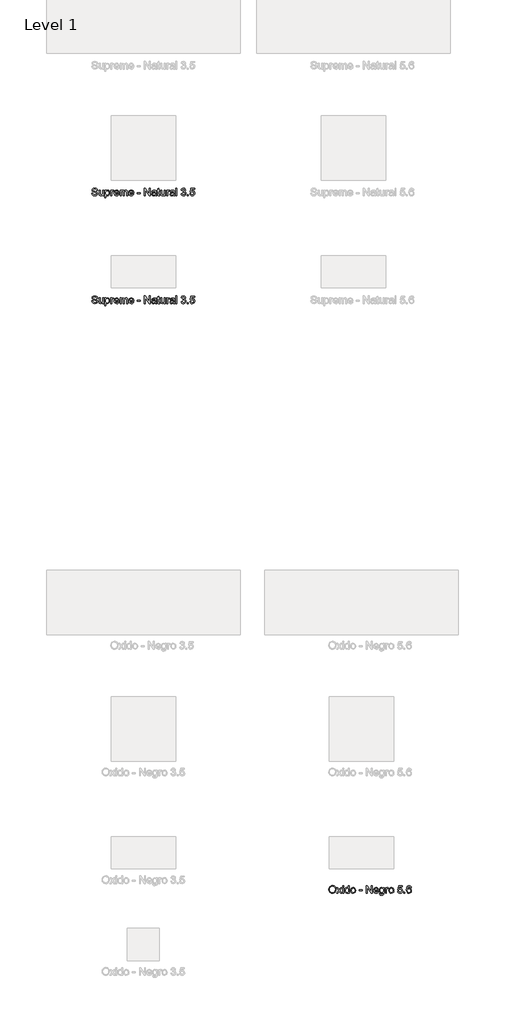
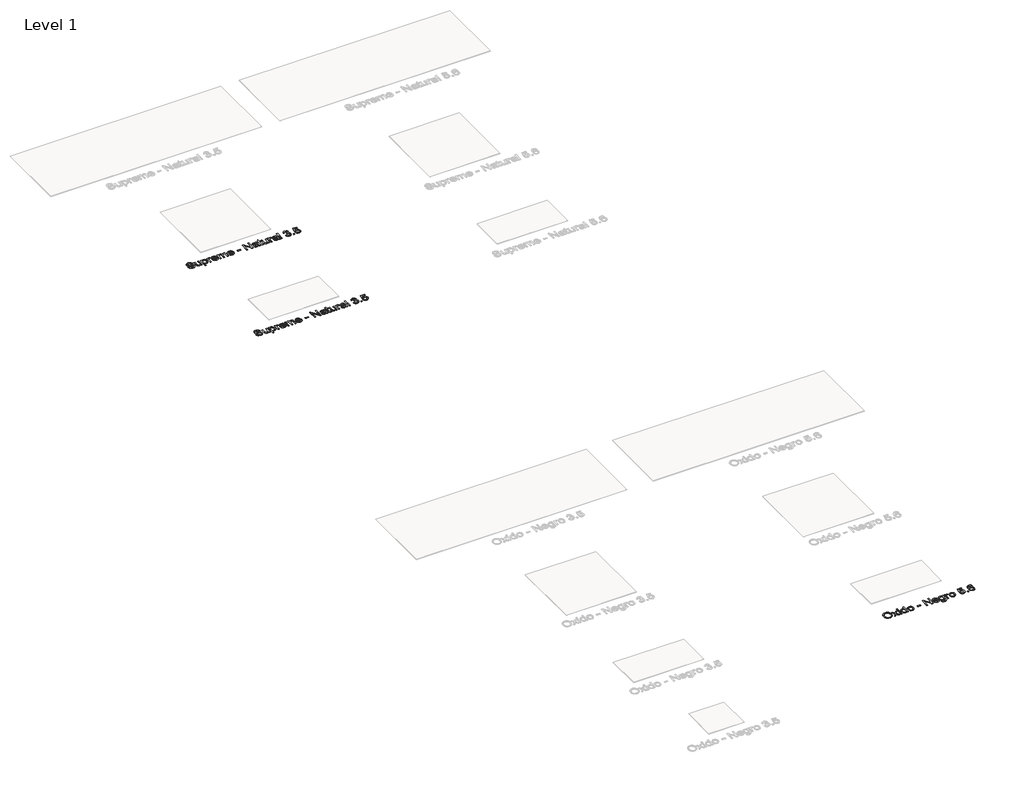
# One storey, part 38 of 80: 3 proxies.
"""IFC4 building model written with IfcOpenShell, lengths in millimetres."""

from ifc_helpers import new_model, si_unit, origin, origin_with_axes, place, context, project, spatial, polyline, outline, extrude, element, save

model = new_model("IFC4")

# Units and contexts
model_context = context("Model", 3, world=origin())
ifc_project = project(units=[si_unit("LENGTHUNIT", "METRE", prefix="MILLI")], contexts=[model_context])

# Site, building, storey
site = spatial("IfcSite", under=ifc_project)
building = spatial("IfcBuilding", under=site)
storey = spatial("IfcBuildingStorey", under=building, Name="Level 1", Elevation=0.0)

# Proxies
placement = place(None, origin())
element("IfcBuildingElementProxy", 1, Name="24\" Arial", ObjectType="24\" Arial", at=placement, inside=storey, context=model_context, shape_type="SweptSolid", body=[
    extrude(outline(polyline([(16211.3854306, -11372.6920446), (16215.3229306, -11346.5646408), (16227.1354306, -11326.7978138), (16245.1714883, -11314.35791), (16267.7796613, -11310.2112754), (16283.2772575, -11312.1583908), (16297.1738921, -11317.9997369), (16308.7123536, -11327.3242561), (16317.1354306, -11339.7208908), (16322.284469, -11354.5910831), (16324.0008152, -11371.3362754), (16322.1943248, -11388.3050254), (16316.7748536, -11403.3843523), (16308.0416806, -11415.8026215), (16296.2940844, -11424.7881985), (16282.5164402, -11430.2401215), (16267.6931229, -11432.0574292), (16251.9575459, -11430.0490158), (16237.9815844, -11424.0237754), (16226.471969, -11414.5261792), (16218.1354306, -11402.1006985), (16213.0729306, -11387.8038235), (16211.3854306, -11372.6920446)]), holes=[polyline([(16226.1546613, -11372.8362754), (16229.1077863, -11391.3194485), (16237.9671613, -11405.4035831), (16251.2832671, -11414.3170446), (16267.6065844, -11417.2881985), (16284.1678825, -11414.2881985), (16297.5056229, -11405.2881985), (16306.300094, -11390.7713715), (16309.2315844, -11371.2208908), (16304.2123536, -11346.8458908), (16298.0356709, -11337.6043042), (16289.5440844, -11330.7064677), (16267.8661998, -11324.9805061), (16251.9791806, -11327.7389196), (16238.471969, -11336.01416), (16229.2339883, -11350.7365158), (16226.1546613, -11372.8362754)])]), origin_with_axes(), (0.0, 0.0, 1.0), 2.0),
    extrude(outline(polyline([(16333.2315844, -11430.2112754), (16364.7892767, -11386.5958908), (16335.0777383, -11343.4420446), (16352.846969, -11343.4420446), (16367.1835075, -11364.2112754), (16373.8758152, -11374.0189677), (16379.6738921, -11365.9997369), (16396.0008152, -11343.4420446), (16413.7700459, -11343.4420446), (16382.5585075, -11386.5958908), (16412.6161998, -11430.2112754), (16394.846969, -11430.2112754), (16376.7604306, -11403.9901215), (16373.4431229, -11399.20166), (16351.0008152, -11430.2112754), (16333.2315844, -11430.2112754)])), origin_with_axes(), (0.0, 0.0, 1.0), 2.0),
    extrude(outline(polyline([(16425.5392767, -11326.82666), (16425.5392767, -11312.0574292), (16440.3085075, -11312.0574292), (16440.3085075, -11326.82666), (16425.5392767, -11326.82666)])), origin_with_axes(), (0.0, 0.0, 1.0), 2.0),
    extrude(outline(polyline([(16425.5392767, -11430.2112754), (16425.5392767, -11343.4420446), (16440.3085075, -11343.4420446), (16440.3085075, -11430.2112754), (16425.5392767, -11430.2112754)])), origin_with_axes(), (0.0, 0.0, 1.0), 2.0),
    extrude(outline(polyline([(16516.0008152, -11430.2112754), (16516.0008152, -11416.2785831), (16506.2291806, -11428.1127177), (16492.721969, -11432.0574292), (16474.4335075, -11426.3458908), (16461.5104306, -11410.4083908), (16456.9238921, -11386.9131985), (16461.1498536, -11363.4035831), (16466.4286998, -11354.0790638), (16473.8133152, -11347.2208908), (16492.6642767, -11341.5958908), (16506.2796613, -11345.6199292), (16516.0008152, -11356.07666), (16516.0008152, -11312.0574292), (16530.7700459, -11312.0574292), (16530.7700459, -11430.2112754), (16516.0008152, -11430.2112754)]), holes=[polyline([(16471.6931229, -11386.8555061), (16473.3589883, -11400.2148811), (16478.3565844, -11409.7160831), (16485.6186036, -11415.3951696), (16494.0777383, -11417.2881985), (16502.5332671, -11415.4817081), (16509.6113921, -11410.0622369), (16514.4034594, -11400.9288235), (16516.0008152, -11387.9805061), (16514.3746133, -11373.8242561), (16509.4960075, -11364.0093523), (16502.237594, -11358.2761792), (16493.471969, -11356.3651215), (16484.9262959, -11358.2004581), (16477.9238921, -11363.7064677), (16473.2508152, -11373.1644004), (16471.6931229, -11386.8555061)])]), origin_with_axes(), (0.0, 0.0, 1.0), 2.0),
    extrude(outline(polyline([(16549.2315844, -11386.82666), (16552.4262959, -11365.9059869), (16562.0104306, -11351.20166), (16573.8517767, -11343.9973331), (16588.0296613, -11341.5958908), (16603.5452863, -11344.5201696), (16615.9383152, -11353.2930061), (16624.0621133, -11367.2220927), (16626.7700459, -11385.6151215), (16621.9815844, -11411.8939677), (16608.034469, -11426.76416), (16588.0296613, -11432.0574292), (16572.3265363, -11429.1439677), (16559.9479306, -11420.4035831), (16551.9106709, -11406.1824292), (16549.2315844, -11386.82666)]), holes=[polyline([(16564.0008152, -11386.7978138), (16565.7099498, -11400.1644004), (16570.8373536, -11409.6872369), (16578.5536998, -11415.3879581), (16588.0296613, -11417.2881985), (16597.4623536, -11415.3771408), (16605.1642767, -11409.6439677), (16610.2916806, -11399.9949292), (16612.0008152, -11386.3362754), (16610.2808633, -11373.3591119), (16605.1210075, -11363.9660831), (16597.4082671, -11358.2653619), (16588.0296613, -11356.3651215), (16578.5536998, -11358.2581504), (16570.8373536, -11363.9372369), (16565.7099498, -11373.4384388), (16564.0008152, -11386.7978138)])]), origin_with_axes(), (0.0, 0.0, 1.0), 2.0),
    extrude(outline(polyline([(16682.1546613, -11395.1343523), (16682.1546613, -11380.3651215), (16728.3085075, -11380.3651215), (16728.3085075, -11395.1343523), (16682.1546613, -11395.1343523)])), origin_with_axes(), (0.0, 0.0, 1.0), 2.0),
    extrude(outline(polyline([(16792.9238921, -11430.2112754), (16792.9238921, -11312.0574292), (16808.7315844, -11312.0574292), (16870.4623536, -11405.6631985), (16870.4623536, -11312.0574292), (16885.2315844, -11312.0574292), (16885.2315844, -11430.2112754), (16869.4238921, -11430.2112754), (16807.6931229, -11336.57666), (16807.6931229, -11430.2112754), (16792.9238921, -11430.2112754)])), origin_with_axes(), (0.0, 0.0, 1.0), 2.0),
    extrude(outline(polyline([(16969.9815844, -11404.3651215), (16984.4623536, -11406.2112754), (16979.2448056, -11417.1223331), (16970.9190844, -11425.2785831), (16959.6726902, -11430.3627177), (16945.6931229, -11432.0574292), (16928.3637959, -11429.1331504), (16915.0296613, -11420.3603138), (16906.5272575, -11406.3086311), (16903.6931229, -11387.5478138), (16906.5561036, -11368.1559869), (16915.1450459, -11353.6535831), (16928.2988921, -11344.6103138), (16944.8565844, -11341.5958908), (16960.8986517, -11344.6031023), (16973.7171613, -11353.6247369), (16982.1222094, -11368.0982946), (16984.9238921, -11387.4612754), (16984.8373536, -11391.4420446), (16918.4623536, -11391.4420446), (16921.018844, -11402.4973331), (16926.9575459, -11410.6247369), (16935.5284594, -11415.6223331), (16945.9815844, -11417.2881985), (16960.4623536, -11414.20166), (16969.9815844, -11404.3651215)]), holes=[polyline([(16918.4623536, -11376.6728138), (16970.1546613, -11376.6728138), (16964.2411998, -11363.2881985), (16955.6306229, -11358.0958908), (16944.7988921, -11356.3651215), (16926.6113921, -11361.88916), (16920.8890363, -11368.3470927), (16918.4623536, -11376.6728138)])]), origin_with_axes(), (0.0, 0.0, 1.0), 2.0),
    extrude(outline(polyline([(16996.0008152, -11437.5958908), (17010.7700459, -11439.4420446), (17015.5585075, -11447.2305061), (17029.8950459, -11450.5189677), (17045.0104306, -11446.7978138), (17052.221969, -11436.3555061), (17053.2315844, -11419.1343523), (17042.8325459, -11427.4420446), (17030.1546613, -11430.2112754), (17014.9274979, -11426.9877177), (17003.5729306, -11417.3170446), (16996.5092286, -11403.13916), (16994.1546613, -11386.3939677), (16998.3806229, -11363.5045446), (17010.6113921, -11347.3074292), (17029.4335075, -11341.5958908), (17042.6089883, -11344.82666), (17053.2315844, -11354.5189677), (17053.2315844, -11343.4420446), (17068.0008152, -11343.4420446), (17068.0008152, -11418.3555061), (17063.9623536, -11447.0430061), (17051.1690844, -11460.3843523), (17029.6065844, -11465.2881985), (17015.8649979, -11463.561035), (17005.0440844, -11458.3795446), (16998.1029786, -11449.7293042), (16996.0008152, -11437.5958908)]), holes=[polyline([(17008.9238921, -11385.3843523), (17010.4996133, -11398.9312273), (17015.2267767, -11408.2449292), (17022.3337479, -11413.6427658), (17031.0488921, -11415.4420446), (17039.6991325, -11413.6535831), (17046.8421613, -11408.2881985), (17051.6342286, -11399.0934869), (17053.2315844, -11385.8170446), (17051.5873536, -11373.0129581), (17046.6546613, -11363.7930061), (17039.4070652, -11358.2220927), (17030.8181229, -11356.3651215), (17022.3842286, -11358.1932465), (17015.3133152, -11363.6776215), (17010.5212479, -11372.7605542), (17008.9238921, -11385.3843523)])]), origin_with_axes(), (0.0, 0.0, 1.0), 2.0),
    extrude(outline(polyline([(17090.1546613, -11430.2112754), (17090.1546613, -11343.4420446), (17103.0777383, -11343.4420446), (17103.0777383, -11356.2785831), (17112.2508152, -11344.45166), (17121.4815844, -11341.5958908), (17136.3085075, -11346.1535831), (17131.3758152, -11359.3939677), (17120.9911998, -11356.3651215), (17112.6402383, -11359.2785831), (17107.3181229, -11367.3555061), (17104.9238921, -11384.6055061), (17104.9238921, -11430.2112754), (17090.1546613, -11430.2112754)])), origin_with_axes(), (0.0, 0.0, 1.0), 2.0),
    extrude(outline(polyline([(17141.846969, -11386.82666), (17145.0416806, -11365.9059869), (17154.6258152, -11351.20166), (17166.4671613, -11343.9973331), (17180.6450459, -11341.5958908), (17196.1606709, -11344.5201696), (17208.5536998, -11353.2930061), (17216.6774979, -11367.2220927), (17219.3854306, -11385.6151215), (17214.596969, -11411.8939677), (17200.6498536, -11426.76416), (17180.6450459, -11432.0574292), (17164.9419209, -11429.1439677), (17152.5633152, -11420.4035831), (17144.5260556, -11406.1824292), (17141.846969, -11386.82666)]), holes=[polyline([(17156.6161998, -11386.7978138), (17158.3253344, -11400.1644004), (17163.4527383, -11409.6872369), (17171.1690844, -11415.3879581), (17180.6450459, -11417.2881985), (17190.0777383, -11415.3771408), (17197.7796613, -11409.6439677), (17202.9070652, -11399.9949292), (17204.6161998, -11386.3362754), (17202.8962479, -11373.3591119), (17197.7363921, -11363.9660831), (17190.0236517, -11358.2653619), (17180.6450459, -11356.3651215), (17171.1690844, -11358.2581504), (17163.4527383, -11363.9372369), (17158.3253344, -11373.4384388), (17156.6161998, -11386.7978138)])]), origin_with_axes(), (0.0, 0.0, 1.0), 2.0),
    extrude(outline(polyline([(17278.4623536, -11398.82666), (17293.2315844, -11396.9805061), (17300.6738921, -11412.1968523), (17316.1065844, -11417.2881985), (17326.6931229, -11415.5177658), (17334.6258152, -11410.2064677), (17339.5801421, -11401.967285), (17341.2315844, -11391.4131985), (17339.6847094, -11381.4756985), (17335.0440844, -11373.8747369), (17327.2736517, -11369.0502177), (17316.3373536, -11367.4420446), (17303.3710075, -11370.0093523), (17295.0777383, -11376.6728138), (17280.3085075, -11374.82666), (17293.2315844, -11313.9035831), (17350.4623536, -11313.9035831), (17350.4623536, -11328.6728138), (17305.1738921, -11328.6728138), (17298.8565844, -11361.2112754), (17309.4070652, -11354.8074292), (17320.4623536, -11352.6728138), (17334.2616325, -11355.3194485), (17345.7171613, -11363.2593523), (17353.4299017, -11375.3603138), (17356.0008152, -11390.4901215), (17353.6859113, -11405.2593523), (17346.7411998, -11417.8939677), (17333.4431229, -11428.5165638), (17316.0488921, -11432.0574292), (17301.5428825, -11429.7821888), (17289.9863921, -11422.9564677), (17282.0645171, -11412.373535), (17278.4623536, -11398.82666)])), origin_with_axes(), (0.0, 0.0, 1.0), 2.0),
    extrude(outline(polyline([(17376.3085075, -11430.2112754), (17376.3085075, -11415.4420446), (17391.0777383, -11415.4420446), (17391.0777383, -11430.2112754), (17376.3085075, -11430.2112754)])), origin_with_axes(), (0.0, 0.0, 1.0), 2.0),
    extrude(outline(polyline([(17490.7700459, -11343.4420446), (17476.0008152, -11345.2881985), (17470.4046613, -11332.9708908), (17463.7051421, -11328.3627177), (17455.6065844, -11326.82666), (17442.2796613, -11330.4035831), (17432.1979306, -11343.8314677), (17428.0008152, -11370.1535831), (17441.0248536, -11358.3699292), (17457.1642767, -11354.5189677), (17470.8085075, -11357.1511792), (17482.2604306, -11365.0478138), (17490.0272575, -11377.1127177), (17492.6161998, -11392.2497369), (17487.7411998, -11412.6295446), (17474.3277383, -11427.0526215), (17454.971969, -11432.0574292), (17438.2159594, -11428.7401215), (17424.8710075, -11418.7881985), (17416.1414402, -11401.2208908), (17413.2315844, -11375.0574292), (17416.4623536, -11345.6415638), (17426.1546613, -11325.5285831), (17439.3878344, -11315.4252177), (17456.5296613, -11312.0574292), (17469.4887959, -11314.1415638), (17479.8661998, -11320.3939677), (17487.1354306, -11330.3242561), (17490.7700459, -11343.4420446)]), holes=[polyline([(17428.0008152, -11392.0189677), (17431.4190844, -11404.8122369), (17440.5056229, -11414.1006985), (17453.8181229, -11417.2881985), (17463.5645171, -11415.6367561), (17471.2267767, -11410.6824292), (17476.1919209, -11402.8939677), (17477.846969, -11392.7401215), (17476.2135556, -11382.9937273), (17471.3133152, -11375.5622369), (17463.5212479, -11370.8567081), (17453.2123536, -11369.2881985), (17443.4803825, -11370.8567081), (17435.3421613, -11375.5622369), (17429.8361517, -11382.8134388), (17428.0008152, -11392.0189677)])]), origin_with_axes(), (0.0, 0.0, 1.0), 2.0),
])
element("IfcBuildingElementProxy", 2, Name="24\" Arial", ObjectType="24\" Arial", at=placement, inside=storey, context=model_context, shape_type="SweptSolid", body=[
    extrude(outline(polyline([(12536.0008152, -575.9830961), (12550.7700459, -575.9830961), (12555.5296613, -590.76675), (12567.1546613, -600.1129038), (12584.8661998, -603.6754038), (12600.2988921, -600.9782884), (12610.2652383, -593.5648269), (12613.5392767, -583.6561731), (12611.0873536, -574.4398269), (12601.0488921, -567.7330961), (12579.5440844, -562.0936731), (12556.3950459, -554.8100192), (12543.8325459, -543.8196346), (12539.6931229, -529.1369423), (12544.8133152, -512.4205961), (12559.7700459, -500.6225192), (12581.6642767, -496.5984808), (12605.0296613, -500.8100192), (12620.6065844, -513.1850192), (12626.4623536, -531.6754038), (12611.6931229, -531.6754038), (12608.9815844, -522.8629038), (12603.3277383, -516.5023269), (12594.4936036, -512.6513654), (12582.2411998, -511.3677115), (12569.7003344, -512.6369423), (12561.096969, -516.4446346), (12556.1210075, -522.048), (12554.4623536, -528.70425), (12559.1642767, -538.9446346), (12583.2796613, -547.1946346), (12609.4142767, -554.6080961), (12623.7075459, -566.57925), (12628.3085075, -583.2811731), (12623.0152383, -600.9494423), (12607.784469, -613.8436731), (12585.4431229, -618.4446346), (12559.0633152, -613.4830961), (12549.5765363, -607.26675), (12542.3758152, -598.5407884), (12536.0008152, -575.9830961)])), origin_with_axes(), (0.0, 0.0, 1.0), 2.0),
    extrude(outline(polyline([(12704.0008152, -616.5984808), (12704.0008152, -601.6850192), (12692.4335075, -614.2547308), (12677.346969, -618.4446346), (12663.4575459, -615.5023269), (12653.8806229, -608.1177115), (12649.4815844, -597.2427115), (12648.6161998, -583.5119423), (12648.6161998, -529.82925), (12663.3854306, -529.82925), (12663.3854306, -576.5600192), (12664.2796613, -591.6177115), (12670.1210075, -600.4590577), (12681.1258152, -603.6754038), (12693.4575459, -600.3869423), (12701.6065844, -591.4302115), (12704.0008152, -574.9734808), (12704.0008152, -529.82925), (12718.7700459, -529.82925), (12718.7700459, -616.5984808), (12704.0008152, -616.5984808)])), origin_with_axes(), (0.0, 0.0, 1.0), 2.0),
    extrude(outline(polyline([(12739.0777383, -649.82925), (12739.0777383, -529.82925), (12753.846969, -529.82925), (12753.846969, -544.3100192), (12764.0585075, -532.0648269), (12777.846969, -527.9830961), (12796.5681229, -533.6946346), (12808.7988921, -549.7907884), (12812.9238921, -572.5504038), (12808.2652383, -596.4782884), (12802.5536998, -605.8677115), (12794.7363921, -612.7763654), (12776.0585075, -618.4446346), (12763.2075459, -614.6513654), (12753.846969, -605.0600192), (12753.846969, -649.82925), (12739.0777383, -649.82925)]), holes=[polyline([(12753.846969, -573.9061731), (12755.4443248, -587.1465577), (12760.2363921, -596.4061731), (12767.3073056, -601.8580961), (12775.7411998, -603.6754038), (12784.3121133, -601.7931923), (12791.5633152, -596.1465577), (12796.5068248, -586.548), (12798.1546613, -572.8100192), (12796.5464883, -559.64175), (12791.721969, -550.2523269), (12784.6618729, -544.6273269), (12776.346969, -542.7523269), (12767.9996133, -544.7463173), (12760.6690844, -550.7282884), (12755.5524979, -560.5107404), (12753.846969, -573.9061731)])]), origin_with_axes(), (0.0, 0.0, 1.0), 2.0),
    extrude(outline(polyline([(12829.5392767, -616.5984808), (12829.5392767, -529.82925), (12842.4623536, -529.82925), (12842.4623536, -542.6657884), (12851.6354306, -530.8388654), (12860.8661998, -527.9830961), (12875.6931229, -532.5407884), (12870.7604306, -545.7811731), (12860.3758152, -542.7523269), (12852.0248536, -545.6657884), (12846.7027383, -553.7427115), (12844.3085075, -570.9927115), (12844.3085075, -616.5984808), (12829.5392767, -616.5984808)])), origin_with_axes(), (0.0, 0.0, 1.0), 2.0),
    extrude(outline(polyline([(12945.6738921, -590.7523269), (12960.1546613, -592.5984808), (12954.9371133, -603.5095384), (12946.6113921, -611.6657884), (12935.3649979, -616.7499231), (12921.3854306, -618.4446346), (12904.0561036, -615.5203558), (12890.721969, -606.7475192), (12882.2195652, -592.6958365), (12879.3854306, -573.9350192), (12882.2484113, -554.5431923), (12890.8373536, -540.0407884), (12903.9911998, -530.9975192), (12920.5488921, -527.9830961), (12936.5909594, -530.9903077), (12949.409469, -540.0119423), (12957.8145171, -554.4855), (12960.6161998, -573.8484808), (12960.5296613, -577.82925), (12894.1546613, -577.82925), (12896.7111517, -588.8845384), (12902.6498536, -597.0119423), (12911.2207671, -602.0095384), (12921.6738921, -603.6754038), (12936.1546613, -600.5888654), (12945.6738921, -590.7523269)]), holes=[polyline([(12894.1546613, -563.0600192), (12945.846969, -563.0600192), (12939.9335075, -549.6754038), (12931.3229306, -544.4830961), (12920.4911998, -542.7523269), (12902.3036998, -548.2763654), (12896.581344, -554.7342981), (12894.1546613, -563.0600192)])]), origin_with_axes(), (0.0, 0.0, 1.0), 2.0),
    extrude(outline(polyline([(12975.3854306, -616.5984808), (12975.3854306, -529.82925), (12990.1546613, -529.82925), (12990.1546613, -544.1080961), (13000.3085075, -532.4109808), (13014.7604306, -527.9830961), (13029.5585075, -532.4975192), (13037.6931229, -545.1465577), (13049.2171613, -532.2739615), (13063.7700459, -527.9830961), (13074.8722094, -529.7679519), (13083.0825459, -535.1225192), (13088.1558633, -544.1910288), (13089.846969, -557.1177115), (13089.846969, -616.5984808), (13075.0777383, -616.5984808), (13075.0777383, -563.4638654), (13073.7075459, -551.1321346), (13068.7460075, -545.0600192), (13060.3085075, -542.7523269), (13052.3073056, -544.2306923), (13045.784469, -548.6657884), (13041.4467286, -556.3605), (13040.0008152, -567.6177115), (13040.0008152, -616.5984808), (13025.2315844, -616.5984808), (13025.2315844, -561.8196346), (13021.8133152, -547.5119423), (13010.6065844, -542.7523269), (12999.6738921, -545.9254038), (12992.4046613, -555.2138654), (12990.1546613, -572.8388654), (12990.1546613, -616.5984808), (12975.3854306, -616.5984808)])), origin_with_axes(), (0.0, 0.0, 1.0), 2.0),
    extrude(outline(polyline([(13172.7508152, -590.7523269), (13187.2315844, -592.5984808), (13182.0140363, -603.5095384), (13173.6883152, -611.6657884), (13162.4419209, -616.7499231), (13148.4623536, -618.4446346), (13131.1330267, -615.5203558), (13117.7988921, -606.7475192), (13109.2964883, -592.6958365), (13106.4623536, -573.9350192), (13109.3253344, -554.5431923), (13117.9142767, -540.0407884), (13131.0681229, -530.9975192), (13147.6258152, -527.9830961), (13163.6678825, -530.9903077), (13176.4863921, -540.0119423), (13184.8914402, -554.4855), (13187.6931229, -573.8484808), (13187.6065844, -577.82925), (13121.2315844, -577.82925), (13123.7880748, -588.8845384), (13129.7267767, -597.0119423), (13138.2976902, -602.0095384), (13148.7508152, -603.6754038), (13163.2315844, -600.5888654), (13172.7508152, -590.7523269)]), holes=[polyline([(13121.2315844, -563.0600192), (13172.9238921, -563.0600192), (13167.0104306, -549.6754038), (13158.3998536, -544.4830961), (13147.5681229, -542.7523269), (13129.3806229, -548.2763654), (13123.6582671, -554.7342981), (13121.2315844, -563.0600192)])]), origin_with_axes(), (0.0, 0.0, 1.0), 2.0),
    extrude(outline(polyline([(13241.2315844, -581.5215577), (13241.2315844, -566.7523269), (13287.3854306, -566.7523269), (13287.3854306, -581.5215577), (13241.2315844, -581.5215577)])), origin_with_axes(), (0.0, 0.0, 1.0), 2.0),
    extrude(outline(polyline([(13352.0008152, -616.5984808), (13352.0008152, -498.4446346), (13367.8085075, -498.4446346), (13429.5392767, -592.0504038), (13429.5392767, -498.4446346), (13444.3085075, -498.4446346), (13444.3085075, -616.5984808), (13428.5008152, -616.5984808), (13366.7700459, -522.9638654), (13366.7700459, -616.5984808), (13352.0008152, -616.5984808)])), origin_with_axes(), (0.0, 0.0, 1.0), 2.0),
    extrude(outline(polyline([(13523.6931229, -605.5215577), (13509.3710075, -615.5311731), (13493.5488921, -618.4446346), (13481.206344, -616.6922308), (13472.1017767, -611.4350192), (13466.487594, -603.4518461), (13464.6161998, -593.5215577), (13467.4431229, -581.8388654), (13474.8710075, -573.3580961), (13485.2123536, -568.5119423), (13497.9911998, -566.2907884), (13523.6065844, -561.2138654), (13523.6931229, -557.9254038), (13519.6258152, -547.0215577), (13503.2988921, -542.7523269), (13488.3565844, -545.5936731), (13481.2315844, -555.6754038), (13466.4623536, -553.82925), (13472.8517767, -539.4061731), (13485.7171613, -530.95425), (13505.2027383, -527.9830961), (13523.1017767, -530.6080961), (13533.2123536, -537.1994423), (13537.7411998, -547.2234808), (13538.4623536, -560.1465577), (13538.4623536, -578.5215577), (13539.2123536, -604.1802115), (13542.1546613, -616.5984808), (13527.3854306, -616.5984808), (13523.6931229, -605.5215577)]), holes=[polyline([(13523.6931229, -575.9830961), (13499.8661998, -580.5119423), (13487.159469, -582.9061731), (13481.4046613, -586.8004038), (13479.3854306, -592.4830961), (13483.784469, -600.4734808), (13496.6931229, -603.6754038), (13511.6354306, -600.14175), (13521.2700459, -591.5888654), (13523.6065844, -580.1657884), (13523.6931229, -575.9830961)])]), origin_with_axes(), (0.0, 0.0, 1.0), 2.0),
    extrude(outline(polyline([(13590.1546613, -604.2811731), (13592.0008152, -617.0311731), (13580.9527383, -618.4446346), (13568.5777383, -615.9927115), (13562.4046613, -609.5600192), (13560.6161998, -592.8004038), (13560.6161998, -544.5984808), (13549.5392767, -544.5984808), (13549.5392767, -529.82925), (13560.6161998, -529.82925), (13560.6161998, -508.7427115), (13575.3854306, -500.0600192), (13575.3854306, -529.82925), (13590.1546613, -529.82925), (13590.1546613, -544.5984808), (13575.3854306, -544.5984808), (13575.3854306, -592.3677115), (13576.1642767, -599.9830961), (13578.6883152, -602.6802115), (13583.721969, -603.6754038), (13590.1546613, -604.2811731)])), origin_with_axes(), (0.0, 0.0, 1.0), 2.0),
    extrude(outline(polyline([(13660.3085075, -616.5984808), (13660.3085075, -601.6850192), (13648.7411998, -614.2547308), (13633.6546613, -618.4446346), (13619.7652383, -615.5023269), (13610.1883152, -608.1177115), (13605.7892767, -597.2427115), (13604.9238921, -583.5119423), (13604.9238921, -529.82925), (13619.6931229, -529.82925), (13619.6931229, -576.5600192), (13620.5873536, -591.6177115), (13626.4286998, -600.4590577), (13637.4335075, -603.6754038), (13649.7652383, -600.3869423), (13657.9142767, -591.4302115), (13660.3085075, -574.9734808), (13660.3085075, -529.82925), (13675.0777383, -529.82925), (13675.0777383, -616.5984808), (13660.3085075, -616.5984808)])), origin_with_axes(), (0.0, 0.0, 1.0), 2.0),
    extrude(outline(polyline([(13695.3854306, -616.5984808), (13695.3854306, -529.82925), (13708.3085075, -529.82925), (13708.3085075, -542.6657884), (13717.4815844, -530.8388654), (13726.7123536, -527.9830961), (13741.5392767, -532.5407884), (13736.6065844, -545.7811731), (13726.221969, -542.7523269), (13717.8710075, -545.6657884), (13712.5488921, -553.7427115), (13710.1546613, -570.9927115), (13710.1546613, -616.5984808), (13695.3854306, -616.5984808)])), origin_with_axes(), (0.0, 0.0, 1.0), 2.0),
    extrude(outline(polyline([(13806.1546613, -605.5215577), (13791.8325459, -615.5311731), (13776.0104306, -618.4446346), (13763.6678825, -616.6922308), (13754.5633152, -611.4350192), (13748.9491325, -603.4518461), (13747.0777383, -593.5215577), (13749.9046613, -581.8388654), (13757.3325459, -573.3580961), (13767.6738921, -568.5119423), (13780.4527383, -566.2907884), (13806.0681229, -561.2138654), (13806.1546613, -557.9254038), (13802.0873536, -547.0215577), (13785.7604306, -542.7523269), (13770.8181229, -545.5936731), (13763.6931229, -555.6754038), (13748.9238921, -553.82925), (13755.3133152, -539.4061731), (13768.1786998, -530.95425), (13787.6642767, -527.9830961), (13805.5633152, -530.6080961), (13815.6738921, -537.1994423), (13820.2027383, -547.2234808), (13820.9238921, -560.1465577), (13820.9238921, -578.5215577), (13821.6738921, -604.1802115), (13824.6161998, -616.5984808), (13809.846969, -616.5984808), (13806.1546613, -605.5215577)]), holes=[polyline([(13806.1546613, -575.9830961), (13782.3277383, -580.5119423), (13769.6210075, -582.9061731), (13763.8661998, -586.8004038), (13761.846969, -592.4830961), (13766.2460075, -600.4734808), (13779.1546613, -603.6754038), (13794.096969, -600.14175), (13803.7315844, -591.5888654), (13806.0681229, -580.1657884), (13806.1546613, -575.9830961)])]), origin_with_axes(), (0.0, 0.0, 1.0), 2.0),
    extrude(outline(polyline([(13841.2315844, -616.5984808), (13841.2315844, -498.4446346), (13856.0008152, -498.4446346), (13856.0008152, -616.5984808), (13841.2315844, -616.5984808)])), origin_with_axes(), (0.0, 0.0, 1.0), 2.0),
    extrude(outline(polyline([(13920.6161998, -585.2138654), (13935.3854306, -583.3677115), (13943.534469, -598.9157884), (13958.7796613, -603.6754038), (13968.9046613, -602.0383846), (13976.721969, -597.1273269), (13981.7195652, -589.8004038), (13983.3854306, -580.9157884), (13981.7339883, -572.4818942), (13976.7796613, -565.64175), (13969.2796613, -561.1092981), (13959.9911998, -559.5984808), (13949.6354306, -561.2138654), (13951.2796613, -546.4446346), (13953.6450459, -546.6177115), (13970.4046613, -542.3773269), (13975.9863921, -536.9975192), (13977.846969, -529.3388654), (13972.4527383, -517.7859808), (13958.5488921, -513.2138654), (13944.471969, -517.82925), (13937.2315844, -531.6754038), (13922.4623536, -529.82925), (13926.8109113, -516.5672308), (13934.5488921, -506.6657884), (13945.1354306, -500.4999231), (13958.0296613, -498.4446346), (13975.8421613, -502.4975192), (13988.3036998, -513.5744423), (13992.6161998, -528.4734808), (13988.5200459, -542.0888654), (13976.4046613, -551.8677115), (13985.6498536, -555.6032884), (13992.5008152, -561.9638654), (13996.7411998, -570.6032884), (13998.1546613, -581.1754038), (13995.3277383, -595.5696346), (13986.846969, -607.5984808), (13974.0464883, -615.7330961), (13958.2604306, -618.4446346), (13943.9815844, -616.1297308), (13932.3565844, -609.1850192), (13924.2724498, -598.5624231), (13920.6161998, -585.2138654)])), origin_with_axes(), (0.0, 0.0, 1.0), 2.0),
    extrude(outline(polyline([(14018.4623536, -616.5984808), (14018.4623536, -601.82925), (14033.2315844, -601.82925), (14033.2315844, -616.5984808), (14018.4623536, -616.5984808)])), origin_with_axes(), (0.0, 0.0, 1.0), 2.0),
    extrude(outline(polyline([(14057.2315844, -585.2138654), (14072.0008152, -583.3677115), (14079.4431229, -598.5840577), (14094.8758152, -603.6754038), (14105.4623536, -601.9049711), (14113.3950459, -596.5936731), (14118.3493729, -588.3544904), (14120.0008152, -577.8004038), (14118.4539402, -567.8629038), (14113.8133152, -560.2619423), (14106.0428825, -555.4374231), (14095.1065844, -553.82925), (14082.1402383, -556.3965577), (14073.846969, -563.0600192), (14059.0777383, -561.2138654), (14072.0008152, -500.2907884), (14129.2315844, -500.2907884), (14129.2315844, -515.0600192), (14083.9431229, -515.0600192), (14077.6258152, -547.5984808), (14088.1762959, -541.1946346), (14099.2315844, -539.0600192), (14113.0308633, -541.7066538), (14124.4863921, -549.6465577), (14132.1991325, -561.7475192), (14134.7700459, -576.8773269), (14132.4551421, -591.6465577), (14125.5104306, -604.2811731), (14112.2123536, -614.9037692), (14094.8181229, -618.4446346), (14080.3121133, -616.1693942), (14068.7556229, -609.3436731), (14060.8337479, -598.7607404), (14057.2315844, -585.2138654)])), origin_with_axes(), (0.0, 0.0, 1.0), 2.0),
])
element("IfcBuildingElementProxy", 3, Name="24\" Arial", ObjectType="24\" Arial", at=placement, inside=storey, context=model_context, shape_type="SweptSolid", body=[
    extrude(outline(polyline([(12536.0008152, -2247.1898581), (12550.7700459, -2247.1898581), (12555.5296613, -2261.973512), (12567.1546613, -2271.3196658), (12584.8661998, -2274.8821658), (12600.2988921, -2272.1850504), (12610.2652383, -2264.7715889), (12613.5392767, -2254.862935), (12611.0873536, -2245.6465889), (12601.0488921, -2238.9398581), (12579.5440844, -2233.300435), (12556.3950459, -2226.0167812), (12543.8325459, -2215.0263966), (12539.6931229, -2200.3437043), (12544.8133152, -2183.6273581), (12559.7700459, -2171.8292812), (12581.6642767, -2167.8052427), (12605.0296613, -2172.0167812), (12620.6065844, -2184.3917812), (12626.4623536, -2202.8821658), (12611.6931229, -2202.8821658), (12608.9815844, -2194.0696658), (12603.3277383, -2187.7090889), (12594.4936036, -2183.8581273), (12582.2411998, -2182.5744735), (12569.7003344, -2183.8437043), (12561.096969, -2187.6513966), (12556.1210075, -2193.254762), (12554.4623536, -2199.911012), (12559.1642767, -2210.1513966), (12583.2796613, -2218.4013966), (12609.4142767, -2225.8148581), (12623.7075459, -2237.786012), (12628.3085075, -2254.487935), (12623.0152383, -2272.1562043), (12607.784469, -2285.050435), (12585.4431229, -2289.6513966), (12559.0633152, -2284.6898581), (12549.5765363, -2278.473512), (12542.3758152, -2269.7475504), (12536.0008152, -2247.1898581)])), origin_with_axes(), (0.0, 0.0, 1.0), 2.0),
    extrude(outline(polyline([(12704.0008152, -2287.8052427), (12704.0008152, -2272.8917812), (12692.4335075, -2285.4614927), (12677.346969, -2289.6513966), (12663.4575459, -2286.7090889), (12653.8806229, -2279.3244735), (12649.4815844, -2268.4494735), (12648.6161998, -2254.7187043), (12648.6161998, -2201.036012), (12663.3854306, -2201.036012), (12663.3854306, -2247.7667812), (12664.2796613, -2262.8244735), (12670.1210075, -2271.6658197), (12681.1258152, -2274.8821658), (12693.4575459, -2271.5937043), (12701.6065844, -2262.6369735), (12704.0008152, -2246.1802427), (12704.0008152, -2201.036012), (12718.7700459, -2201.036012), (12718.7700459, -2287.8052427), (12704.0008152, -2287.8052427)])), origin_with_axes(), (0.0, 0.0, 1.0), 2.0),
    extrude(outline(polyline([(12739.0777383, -2321.036012), (12739.0777383, -2201.036012), (12753.846969, -2201.036012), (12753.846969, -2215.5167812), (12764.0585075, -2203.2715889), (12777.846969, -2199.1898581), (12796.5681229, -2204.9013966), (12808.7988921, -2220.9975504), (12812.9238921, -2243.7571658), (12808.2652383, -2267.6850504), (12802.5536998, -2277.0744735), (12794.7363921, -2283.9831273), (12776.0585075, -2289.6513966), (12763.2075459, -2285.8581273), (12753.846969, -2276.2667812), (12753.846969, -2321.036012), (12739.0777383, -2321.036012)]), holes=[polyline([(12753.846969, -2245.112935), (12755.4443248, -2258.3533197), (12760.2363921, -2267.612935), (12767.3073056, -2273.0648581), (12775.7411998, -2274.8821658), (12784.3121133, -2272.9999543), (12791.5633152, -2267.3533197), (12796.5068248, -2257.754762), (12798.1546613, -2244.0167812), (12796.5464883, -2230.848512), (12791.721969, -2221.4590889), (12784.6618729, -2215.8340889), (12776.346969, -2213.9590889), (12767.9996133, -2215.9530793), (12760.6690844, -2221.9350504), (12755.5524979, -2231.7175023), (12753.846969, -2245.112935)])]), origin_with_axes(), (0.0, 0.0, 1.0), 2.0),
    extrude(outline(polyline([(12829.5392767, -2287.8052427), (12829.5392767, -2201.036012), (12842.4623536, -2201.036012), (12842.4623536, -2213.8725504), (12851.6354306, -2202.0456273), (12860.8661998, -2199.1898581), (12875.6931229, -2203.7475504), (12870.7604306, -2216.987935), (12860.3758152, -2213.9590889), (12852.0248536, -2216.8725504), (12846.7027383, -2224.9494735), (12844.3085075, -2242.1994735), (12844.3085075, -2287.8052427), (12829.5392767, -2287.8052427)])), origin_with_axes(), (0.0, 0.0, 1.0), 2.0),
    extrude(outline(polyline([(12945.6738921, -2261.9590889), (12960.1546613, -2263.8052427), (12954.9371133, -2274.7163004), (12946.6113921, -2282.8725504), (12935.3649979, -2287.956685), (12921.3854306, -2289.6513966), (12904.0561036, -2286.7271177), (12890.721969, -2277.9542812), (12882.2195652, -2263.9025985), (12879.3854306, -2245.1417812), (12882.2484113, -2225.7499543), (12890.8373536, -2211.2475504), (12903.9911998, -2202.2042812), (12920.5488921, -2199.1898581), (12936.5909594, -2202.1970697), (12949.409469, -2211.2187043), (12957.8145171, -2225.692262), (12960.6161998, -2245.0552427), (12960.5296613, -2249.036012), (12894.1546613, -2249.036012), (12896.7111517, -2260.0913004), (12902.6498536, -2268.2187043), (12911.2207671, -2273.2163004), (12921.6738921, -2274.8821658), (12936.1546613, -2271.7956273), (12945.6738921, -2261.9590889)]), holes=[polyline([(12894.1546613, -2234.2667812), (12945.846969, -2234.2667812), (12939.9335075, -2220.8821658), (12931.3229306, -2215.6898581), (12920.4911998, -2213.9590889), (12902.3036998, -2219.4831273), (12896.581344, -2225.94106), (12894.1546613, -2234.2667812)])]), origin_with_axes(), (0.0, 0.0, 1.0), 2.0),
    extrude(outline(polyline([(12975.3854306, -2287.8052427), (12975.3854306, -2201.036012), (12990.1546613, -2201.036012), (12990.1546613, -2215.3148581), (13000.3085075, -2203.6177427), (13014.7604306, -2199.1898581), (13029.5585075, -2203.7042812), (13037.6931229, -2216.3533197), (13049.2171613, -2203.4807235), (13063.7700459, -2199.1898581), (13074.8722094, -2200.9747139), (13083.0825459, -2206.3292812), (13088.1558633, -2215.3977908), (13089.846969, -2228.3244735), (13089.846969, -2287.8052427), (13075.0777383, -2287.8052427), (13075.0777383, -2234.6706273), (13073.7075459, -2222.3388966), (13068.7460075, -2216.2667812), (13060.3085075, -2213.9590889), (13052.3073056, -2215.4374543), (13045.784469, -2219.8725504), (13041.4467286, -2227.567262), (13040.0008152, -2238.8244735), (13040.0008152, -2287.8052427), (13025.2315844, -2287.8052427), (13025.2315844, -2233.0263966), (13021.8133152, -2218.7187043), (13010.6065844, -2213.9590889), (12999.6738921, -2217.1321658), (12992.4046613, -2226.4206273), (12990.1546613, -2244.0456273), (12990.1546613, -2287.8052427), (12975.3854306, -2287.8052427)])), origin_with_axes(), (0.0, 0.0, 1.0), 2.0),
    extrude(outline(polyline([(13172.7508152, -2261.9590889), (13187.2315844, -2263.8052427), (13182.0140363, -2274.7163004), (13173.6883152, -2282.8725504), (13162.4419209, -2287.956685), (13148.4623536, -2289.6513966), (13131.1330267, -2286.7271177), (13117.7988921, -2277.9542812), (13109.2964883, -2263.9025985), (13106.4623536, -2245.1417812), (13109.3253344, -2225.7499543), (13117.9142767, -2211.2475504), (13131.0681229, -2202.2042812), (13147.6258152, -2199.1898581), (13163.6678825, -2202.1970697), (13176.4863921, -2211.2187043), (13184.8914402, -2225.692262), (13187.6931229, -2245.0552427), (13187.6065844, -2249.036012), (13121.2315844, -2249.036012), (13123.7880748, -2260.0913004), (13129.7267767, -2268.2187043), (13138.2976902, -2273.2163004), (13148.7508152, -2274.8821658), (13163.2315844, -2271.7956273), (13172.7508152, -2261.9590889)]), holes=[polyline([(13121.2315844, -2234.2667812), (13172.9238921, -2234.2667812), (13167.0104306, -2220.8821658), (13158.3998536, -2215.6898581), (13147.5681229, -2213.9590889), (13129.3806229, -2219.4831273), (13123.6582671, -2225.94106), (13121.2315844, -2234.2667812)])]), origin_with_axes(), (0.0, 0.0, 1.0), 2.0),
    extrude(outline(polyline([(13241.2315844, -2252.7283197), (13241.2315844, -2237.9590889), (13287.3854306, -2237.9590889), (13287.3854306, -2252.7283197), (13241.2315844, -2252.7283197)])), origin_with_axes(), (0.0, 0.0, 1.0), 2.0),
    extrude(outline(polyline([(13352.0008152, -2287.8052427), (13352.0008152, -2169.6513966), (13367.8085075, -2169.6513966), (13429.5392767, -2263.2571658), (13429.5392767, -2169.6513966), (13444.3085075, -2169.6513966), (13444.3085075, -2287.8052427), (13428.5008152, -2287.8052427), (13366.7700459, -2194.1706273), (13366.7700459, -2287.8052427), (13352.0008152, -2287.8052427)])), origin_with_axes(), (0.0, 0.0, 1.0), 2.0),
    extrude(outline(polyline([(13523.6931229, -2276.7283197), (13509.3710075, -2286.737935), (13493.5488921, -2289.6513966), (13481.206344, -2287.8989927), (13472.1017767, -2282.6417812), (13466.487594, -2274.6586081), (13464.6161998, -2264.7283197), (13467.4431229, -2253.0456273), (13474.8710075, -2244.5648581), (13485.2123536, -2239.7187043), (13497.9911998, -2237.4975504), (13523.6065844, -2232.4206273), (13523.6931229, -2229.1321658), (13519.6258152, -2218.2283197), (13503.2988921, -2213.9590889), (13488.3565844, -2216.800435), (13481.2315844, -2226.8821658), (13466.4623536, -2225.036012), (13472.8517767, -2210.612935), (13485.7171613, -2202.161012), (13505.2027383, -2199.1898581), (13523.1017767, -2201.8148581), (13533.2123536, -2208.4062043), (13537.7411998, -2218.4302427), (13538.4623536, -2231.3533197), (13538.4623536, -2249.7283197), (13539.2123536, -2275.3869735), (13542.1546613, -2287.8052427), (13527.3854306, -2287.8052427), (13523.6931229, -2276.7283197)]), holes=[polyline([(13523.6931229, -2247.1898581), (13499.8661998, -2251.7187043), (13487.159469, -2254.112935), (13481.4046613, -2258.0071658), (13479.3854306, -2263.6898581), (13483.784469, -2271.6802427), (13496.6931229, -2274.8821658), (13511.6354306, -2271.348512), (13521.2700459, -2262.7956273), (13523.6065844, -2251.3725504), (13523.6931229, -2247.1898581)])]), origin_with_axes(), (0.0, 0.0, 1.0), 2.0),
    extrude(outline(polyline([(13590.1546613, -2275.487935), (13592.0008152, -2288.237935), (13580.9527383, -2289.6513966), (13568.5777383, -2287.1994735), (13562.4046613, -2280.7667812), (13560.6161998, -2264.0071658), (13560.6161998, -2215.8052427), (13549.5392767, -2215.8052427), (13549.5392767, -2201.036012), (13560.6161998, -2201.036012), (13560.6161998, -2179.9494735), (13575.3854306, -2171.2667812), (13575.3854306, -2201.036012), (13590.1546613, -2201.036012), (13590.1546613, -2215.8052427), (13575.3854306, -2215.8052427), (13575.3854306, -2263.5744735), (13576.1642767, -2271.1898581), (13578.6883152, -2273.8869735), (13583.721969, -2274.8821658), (13590.1546613, -2275.487935)])), origin_with_axes(), (0.0, 0.0, 1.0), 2.0),
    extrude(outline(polyline([(13660.3085075, -2287.8052427), (13660.3085075, -2272.8917812), (13648.7411998, -2285.4614927), (13633.6546613, -2289.6513966), (13619.7652383, -2286.7090889), (13610.1883152, -2279.3244735), (13605.7892767, -2268.4494735), (13604.9238921, -2254.7187043), (13604.9238921, -2201.036012), (13619.6931229, -2201.036012), (13619.6931229, -2247.7667812), (13620.5873536, -2262.8244735), (13626.4286998, -2271.6658197), (13637.4335075, -2274.8821658), (13649.7652383, -2271.5937043), (13657.9142767, -2262.6369735), (13660.3085075, -2246.1802427), (13660.3085075, -2201.036012), (13675.0777383, -2201.036012), (13675.0777383, -2287.8052427), (13660.3085075, -2287.8052427)])), origin_with_axes(), (0.0, 0.0, 1.0), 2.0),
    extrude(outline(polyline([(13695.3854306, -2287.8052427), (13695.3854306, -2201.036012), (13708.3085075, -2201.036012), (13708.3085075, -2213.8725504), (13717.4815844, -2202.0456273), (13726.7123536, -2199.1898581), (13741.5392767, -2203.7475504), (13736.6065844, -2216.987935), (13726.221969, -2213.9590889), (13717.8710075, -2216.8725504), (13712.5488921, -2224.9494735), (13710.1546613, -2242.1994735), (13710.1546613, -2287.8052427), (13695.3854306, -2287.8052427)])), origin_with_axes(), (0.0, 0.0, 1.0), 2.0),
    extrude(outline(polyline([(13806.1546613, -2276.7283197), (13791.8325459, -2286.737935), (13776.0104306, -2289.6513966), (13763.6678825, -2287.8989927), (13754.5633152, -2282.6417812), (13748.9491325, -2274.6586081), (13747.0777383, -2264.7283197), (13749.9046613, -2253.0456273), (13757.3325459, -2244.5648581), (13767.6738921, -2239.7187043), (13780.4527383, -2237.4975504), (13806.0681229, -2232.4206273), (13806.1546613, -2229.1321658), (13802.0873536, -2218.2283197), (13785.7604306, -2213.9590889), (13770.8181229, -2216.800435), (13763.6931229, -2226.8821658), (13748.9238921, -2225.036012), (13755.3133152, -2210.612935), (13768.1786998, -2202.161012), (13787.6642767, -2199.1898581), (13805.5633152, -2201.8148581), (13815.6738921, -2208.4062043), (13820.2027383, -2218.4302427), (13820.9238921, -2231.3533197), (13820.9238921, -2249.7283197), (13821.6738921, -2275.3869735), (13824.6161998, -2287.8052427), (13809.846969, -2287.8052427), (13806.1546613, -2276.7283197)]), holes=[polyline([(13806.1546613, -2247.1898581), (13782.3277383, -2251.7187043), (13769.6210075, -2254.112935), (13763.8661998, -2258.0071658), (13761.846969, -2263.6898581), (13766.2460075, -2271.6802427), (13779.1546613, -2274.8821658), (13794.096969, -2271.348512), (13803.7315844, -2262.7956273), (13806.0681229, -2251.3725504), (13806.1546613, -2247.1898581)])]), origin_with_axes(), (0.0, 0.0, 1.0), 2.0),
    extrude(outline(polyline([(13841.2315844, -2287.8052427), (13841.2315844, -2169.6513966), (13856.0008152, -2169.6513966), (13856.0008152, -2287.8052427), (13841.2315844, -2287.8052427)])), origin_with_axes(), (0.0, 0.0, 1.0), 2.0),
    extrude(outline(polyline([(13920.6161998, -2256.4206273), (13935.3854306, -2254.5744735), (13943.534469, -2270.1225504), (13958.7796613, -2274.8821658), (13968.9046613, -2273.2451466), (13976.721969, -2268.3340889), (13981.7195652, -2261.0071658), (13983.3854306, -2252.1225504), (13981.7339883, -2243.6886562), (13976.7796613, -2236.848512), (13969.2796613, -2232.31606), (13959.9911998, -2230.8052427), (13949.6354306, -2232.4206273), (13951.2796613, -2217.6513966), (13953.6450459, -2217.8244735), (13970.4046613, -2213.5840889), (13975.9863921, -2208.2042812), (13977.846969, -2200.5456273), (13972.4527383, -2188.9927427), (13958.5488921, -2184.4206273), (13944.471969, -2189.036012), (13937.2315844, -2202.8821658), (13922.4623536, -2201.036012), (13926.8109113, -2187.7739927), (13934.5488921, -2177.8725504), (13945.1354306, -2171.706685), (13958.0296613, -2169.6513966), (13975.8421613, -2173.7042812), (13988.3036998, -2184.7812043), (13992.6161998, -2199.6802427), (13988.5200459, -2213.2956273), (13976.4046613, -2223.0744735), (13985.6498536, -2226.8100504), (13992.5008152, -2233.1706273), (13996.7411998, -2241.8100504), (13998.1546613, -2252.3821658), (13995.3277383, -2266.7763966), (13986.846969, -2278.8052427), (13974.0464883, -2286.9398581), (13958.2604306, -2289.6513966), (13943.9815844, -2287.3364927), (13932.3565844, -2280.3917812), (13924.2724498, -2269.769185), (13920.6161998, -2256.4206273)])), origin_with_axes(), (0.0, 0.0, 1.0), 2.0),
    extrude(outline(polyline([(14018.4623536, -2287.8052427), (14018.4623536, -2273.036012), (14033.2315844, -2273.036012), (14033.2315844, -2287.8052427), (14018.4623536, -2287.8052427)])), origin_with_axes(), (0.0, 0.0, 1.0), 2.0),
    extrude(outline(polyline([(14057.2315844, -2256.4206273), (14072.0008152, -2254.5744735), (14079.4431229, -2269.7908197), (14094.8758152, -2274.8821658), (14105.4623536, -2273.1117331), (14113.3950459, -2267.800435), (14118.3493729, -2259.5612523), (14120.0008152, -2249.0071658), (14118.4539402, -2239.0696658), (14113.8133152, -2231.4687043), (14106.0428825, -2226.644185), (14095.1065844, -2225.036012), (14082.1402383, -2227.6033197), (14073.846969, -2234.2667812), (14059.0777383, -2232.4206273), (14072.0008152, -2171.4975504), (14129.2315844, -2171.4975504), (14129.2315844, -2186.2667812), (14083.9431229, -2186.2667812), (14077.6258152, -2218.8052427), (14088.1762959, -2212.4013966), (14099.2315844, -2210.2667812), (14113.0308633, -2212.9134158), (14124.4863921, -2220.8533197), (14132.1991325, -2232.9542812), (14134.7700459, -2248.0840889), (14132.4551421, -2262.8533197), (14125.5104306, -2275.487935), (14112.2123536, -2286.1105312), (14094.8181229, -2289.6513966), (14080.3121133, -2287.3761562), (14068.7556229, -2280.550435), (14060.8337479, -2269.9675023), (14057.2315844, -2256.4206273)])), origin_with_axes(), (0.0, 0.0, 1.0), 2.0),
])

save(model, "model.ifc")
